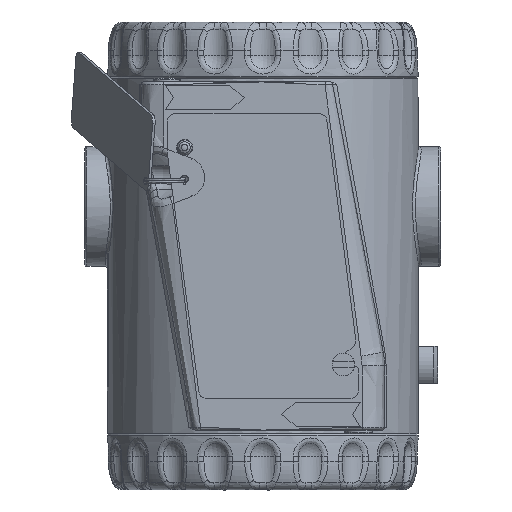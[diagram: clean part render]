
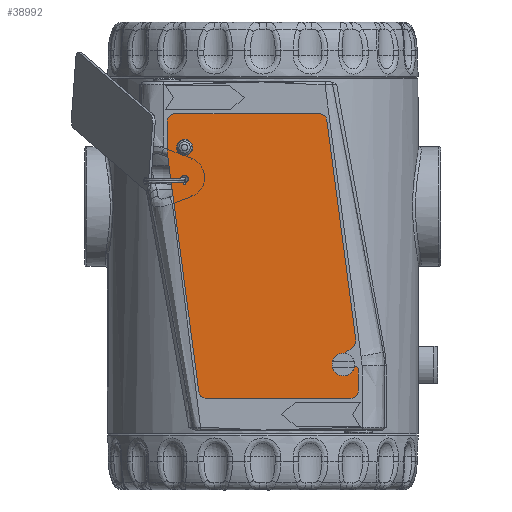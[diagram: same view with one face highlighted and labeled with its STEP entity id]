
A CAD part, left-side view. The second image highlights one B-rep face of the part: STEP entity #38992.
In plain terms, the highlighted planar face has unit normal (-1, 0, 0) as drawn and (0, 0, 1) by its records, which use the part's own axes.
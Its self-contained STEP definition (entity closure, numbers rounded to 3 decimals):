
#1178=PLANE('',#43400);
#1814=FACE_BOUND('',#10286,.T.);
#1815=FACE_BOUND('',#10287,.T.);
#3217=LINE('',#82188,#4971);
#3221=LINE('',#82200,#4975);
#3225=LINE('',#82212,#4979);
#3229=LINE('',#82224,#4983);
#3233=LINE('',#82236,#4987);
#3236=LINE('',#82242,#4990);
#3240=LINE('',#82254,#4994);
#3244=LINE('',#82265,#4998);
#4971=VECTOR('',#52460,10.);
#4975=VECTOR('',#52472,10.);
#4979=VECTOR('',#52484,10.);
#4983=VECTOR('',#52496,10.);
#4987=VECTOR('',#52508,10.);
#4990=VECTOR('',#52513,10.);
#4994=VECTOR('',#52525,10.);
#4998=VECTOR('',#52537,10.);
#7751=FACE_OUTER_BOUND('',#10285,.T.);
#10285=EDGE_LOOP('',(#32424,#32425,#32426,#32427,#32428,#32429,#32430,#32431,
#32432,#32433,#32434,#32435,#32436,#32437,#32438));
#10286=EDGE_LOOP('',(#32439));
#10287=EDGE_LOOP('',(#32440));
#12905=CIRCLE('',#43366,1.35);
#12907=CIRCLE('',#43369,1.);
#12908=CIRCLE('',#43371,2.);
#12910=CIRCLE('',#43375,2.);
#12912=CIRCLE('',#43379,1.);
#12914=CIRCLE('',#43383,2.);
#12916=CIRCLE('',#43387,2.);
#12918=CIRCLE('',#43392,2.);
#12920=CIRCLE('',#43396,2.);
#17520=VERTEX_POINT('',#82168);
#17522=VERTEX_POINT('',#82174);
#17523=VERTEX_POINT('',#82178);
#17524=VERTEX_POINT('',#82179);
#17527=VERTEX_POINT('',#82187);
#17529=VERTEX_POINT('',#82193);
#17531=VERTEX_POINT('',#82199);
#17533=VERTEX_POINT('',#82205);
#17535=VERTEX_POINT('',#82211);
#17537=VERTEX_POINT('',#82217);
#17539=VERTEX_POINT('',#82223);
#17541=VERTEX_POINT('',#82229);
#17543=VERTEX_POINT('',#82235);
#17545=VERTEX_POINT('',#82241);
#17547=VERTEX_POINT('',#82247);
#17549=VERTEX_POINT('',#82253);
#17551=VERTEX_POINT('',#82259);
#22619=EDGE_CURVE('',#17520,#17520,#12905,.T.);
#22622=EDGE_CURVE('',#17522,#17522,#12907,.T.);
#22623=EDGE_CURVE('',#17523,#17524,#12908,.T.);
#22627=EDGE_CURVE('',#17524,#17527,#3217,.T.);
#22630=EDGE_CURVE('',#17527,#17529,#12910,.T.);
#22633=EDGE_CURVE('',#17529,#17531,#3221,.T.);
#22636=EDGE_CURVE('',#17531,#17533,#12912,.T.);
#22639=EDGE_CURVE('',#17533,#17535,#3225,.T.);
#22642=EDGE_CURVE('',#17535,#17537,#12914,.T.);
#22645=EDGE_CURVE('',#17537,#17539,#3229,.T.);
#22648=EDGE_CURVE('',#17539,#17541,#12916,.T.);
#22651=EDGE_CURVE('',#17541,#17543,#3233,.T.);
#22654=EDGE_CURVE('',#17543,#17545,#3236,.T.);
#22657=EDGE_CURVE('',#17545,#17547,#12918,.T.);
#22660=EDGE_CURVE('',#17547,#17549,#3240,.T.);
#22663=EDGE_CURVE('',#17549,#17551,#12920,.T.);
#22666=EDGE_CURVE('',#17551,#17523,#3244,.T.);
#32424=ORIENTED_EDGE('',*,*,#22623,.F.);
#32425=ORIENTED_EDGE('',*,*,#22666,.F.);
#32426=ORIENTED_EDGE('',*,*,#22663,.F.);
#32427=ORIENTED_EDGE('',*,*,#22660,.F.);
#32428=ORIENTED_EDGE('',*,*,#22657,.F.);
#32429=ORIENTED_EDGE('',*,*,#22654,.F.);
#32430=ORIENTED_EDGE('',*,*,#22651,.F.);
#32431=ORIENTED_EDGE('',*,*,#22648,.F.);
#32432=ORIENTED_EDGE('',*,*,#22645,.F.);
#32433=ORIENTED_EDGE('',*,*,#22642,.F.);
#32434=ORIENTED_EDGE('',*,*,#22639,.F.);
#32435=ORIENTED_EDGE('',*,*,#22636,.F.);
#32436=ORIENTED_EDGE('',*,*,#22633,.F.);
#32437=ORIENTED_EDGE('',*,*,#22630,.F.);
#32438=ORIENTED_EDGE('',*,*,#22627,.F.);
#32439=ORIENTED_EDGE('',*,*,#22619,.T.);
#32440=ORIENTED_EDGE('',*,*,#22622,.T.);
#38992=ADVANCED_FACE('',(#7751,#1814,#1815),#1178,.T.);
#43366=AXIS2_PLACEMENT_3D('',#82170,#52441,#52442);
#43369=AXIS2_PLACEMENT_3D('',#82176,#52448,#52449);
#43371=AXIS2_PLACEMENT_3D('',#82180,#52452,#52453);
#43375=AXIS2_PLACEMENT_3D('',#82194,#52465,#52466);
#43379=AXIS2_PLACEMENT_3D('',#82206,#52477,#52478);
#43383=AXIS2_PLACEMENT_3D('',#82218,#52489,#52490);
#43387=AXIS2_PLACEMENT_3D('',#82230,#52501,#52502);
#43392=AXIS2_PLACEMENT_3D('',#82248,#52518,#52519);
#43396=AXIS2_PLACEMENT_3D('',#82260,#52530,#52531);
#43400=AXIS2_PLACEMENT_3D('',#82268,#52541,#52542);
#52441=DIRECTION('center_axis',(0.,0.,-1.));
#52442=DIRECTION('ref_axis',(-1.,0.,0.));
#52448=DIRECTION('center_axis',(0.,0.,-1.));
#52449=DIRECTION('ref_axis',(-1.,0.,0.));
#52452=DIRECTION('center_axis',(0.,0.,-1.));
#52453=DIRECTION('ref_axis',(0.766,0.643,0.));
#52460=DIRECTION('',(0.643,-0.766,0.));
#52465=DIRECTION('center_axis',(0.,0.,1.));
#52466=DIRECTION('ref_axis',(0.766,0.643,0.));
#52472=DIRECTION('',(-0.643,0.766,0.));
#52477=DIRECTION('center_axis',(0.,0.,-1.));
#52478=DIRECTION('ref_axis',(0.,1.,0.));
#52484=DIRECTION('',(1.,0.,0.));
#52489=DIRECTION('center_axis',(0.,0.,-1.));
#52490=DIRECTION('ref_axis',(1.,0.,0.));
#52496=DIRECTION('',(0.,-1.,0.));
#52501=DIRECTION('center_axis',(0.,0.,-1.));
#52502=DIRECTION('ref_axis',(0.131,-0.991,0.));
#52508=DIRECTION('',(-0.991,-0.131,0.));
#52513=DIRECTION('',(-1.,0.,0.));
#52518=DIRECTION('center_axis',(0.,0.,-1.));
#52519=DIRECTION('ref_axis',(-1.,0.,0.));
#52525=DIRECTION('',(0.,1.,0.));
#52530=DIRECTION('center_axis',(0.,0.,-1.));
#52531=DIRECTION('ref_axis',(-0.131,0.991,0.));
#52537=DIRECTION('',(0.991,0.131,0.));
#52541=DIRECTION('center_axis',(0.,0.,1.));
#52542=DIRECTION('ref_axis',(1.,0.,0.));
#82168=CARTESIAN_POINT('',(10.35,4.599,0.7));
#82170=CARTESIAN_POINT('Origin',(9.,4.599,0.7));
#82174=CARTESIAN_POINT('',(18.4,4.599,0.7));
#82176=CARTESIAN_POINT('Origin',(17.4,4.599,0.7));
#82178=CARTESIAN_POINT('',(60.389,50.327,0.7));
#82179=CARTESIAN_POINT('',(62.182,49.63,0.7));
#82180=CARTESIAN_POINT('Origin',(60.65,48.344,0.7));
#82187=CARTESIAN_POINT('',(65.468,45.714,0.7));
#82188=CARTESIAN_POINT('',(65.468,45.714,0.7));
#82193=CARTESIAN_POINT('',(68.532,48.286,0.7));
#82194=CARTESIAN_POINT('Origin',(67.,47.,0.7));
#82199=CARTESIAN_POINT('',(67.633,49.357,0.7));
#82200=CARTESIAN_POINT('',(67.633,49.357,0.7));
#82205=CARTESIAN_POINT('',(68.399,51.,0.7));
#82206=CARTESIAN_POINT('Origin',(68.399,50.,0.7));
#82211=CARTESIAN_POINT('',(74.,51.,0.7));
#82212=CARTESIAN_POINT('',(74.,51.,0.7));
#82217=CARTESIAN_POINT('',(76.,49.,0.7));
#82218=CARTESIAN_POINT('Origin',(74.,49.,0.7));
#82223=CARTESIAN_POINT('',(76.,10.377,0.7));
#82224=CARTESIAN_POINT('',(76.,10.377,0.7));
#82229=CARTESIAN_POINT('',(74.261,8.394,0.7));
#82230=CARTESIAN_POINT('Origin',(74.,10.377,0.7));
#82235=CARTESIAN_POINT('',(10.5,0.,0.7));
#82236=CARTESIAN_POINT('',(10.5,0.,0.7));
#82241=CARTESIAN_POINT('',(2.,0.,0.7));
#82242=CARTESIAN_POINT('',(2.,0.,0.7));
#82247=CARTESIAN_POINT('',(0.,2.,0.7));
#82248=CARTESIAN_POINT('Origin',(2.,2.,0.7));
#82253=CARTESIAN_POINT('',(0.,40.623,0.7));
#82254=CARTESIAN_POINT('',(0.,40.623,0.7));
#82259=CARTESIAN_POINT('',(1.739,42.606,0.7));
#82260=CARTESIAN_POINT('Origin',(2.,40.623,0.7));
#82265=CARTESIAN_POINT('',(60.389,50.327,0.7));
#82268=CARTESIAN_POINT('Origin',(39.077,26.228,0.7));
